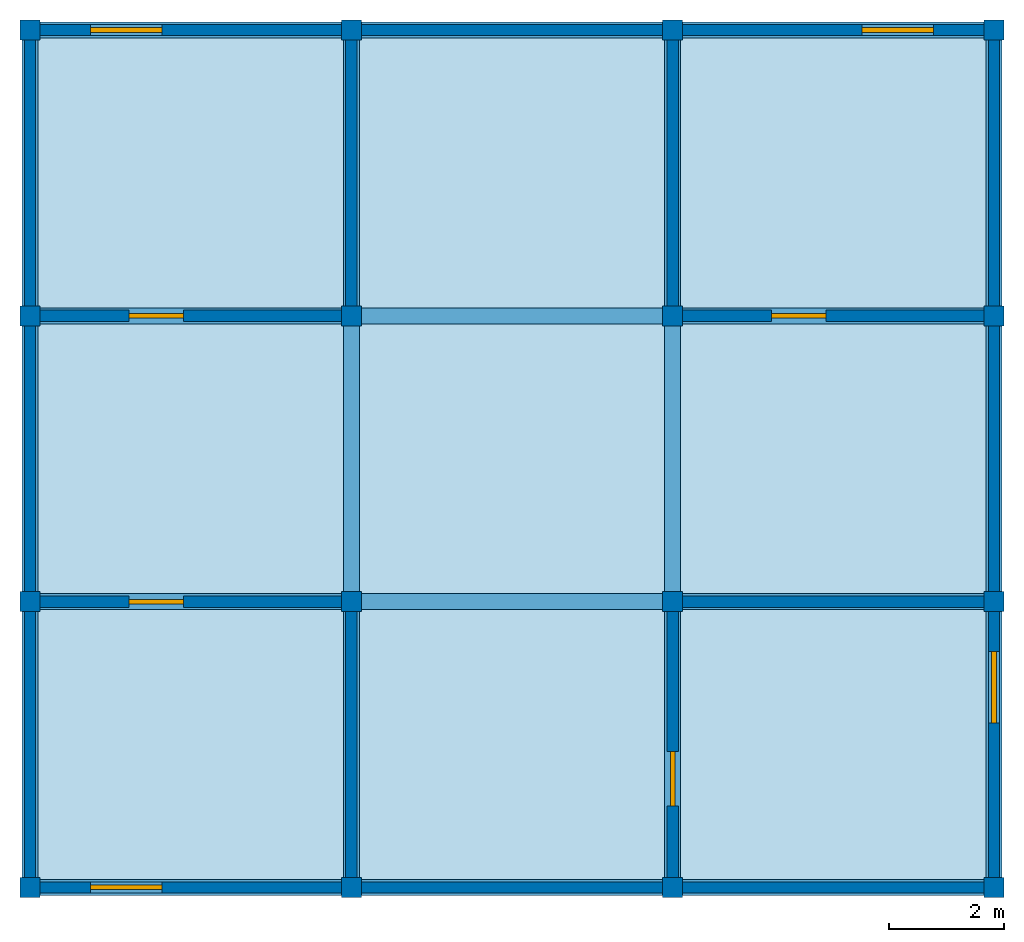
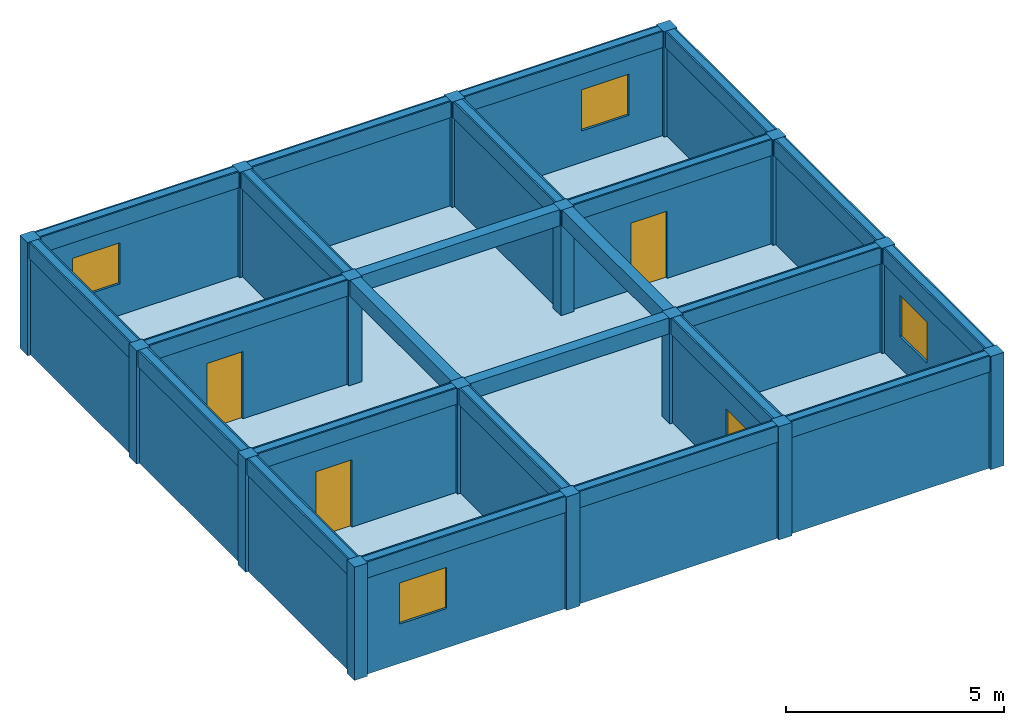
# One storey: 24 beams, 20 walls, 16 columns, 4 doors, 4 windows, 1 slab, 8 openings.
"""IFC4X3 building model written with IfcOpenShell, lengths in metres."""

from ifc_helpers import new_model, si_unit, frame, origin_with_axes, origin_2d, place, context, project, spatial, rectangle, extrude, material, element, fill, save


model = new_model("IFC4X3")

# Units and contexts
model_context = context("Model", 3, precision=1e-05, world=origin_with_axes())
ifc_project = project(units=[si_unit("LENGTHUNIT", "METRE"), si_unit("AREAUNIT", "SQUARE_METRE"), si_unit("VOLUMEUNIT", "CUBIC_METRE")], contexts=[model_context])

# Site, building, storey
site = spatial("IfcSite", under=ifc_project, Name="Puerto Montt Parcel", CompositionType="ELEMENT")
building = spatial("IfcBuilding", under=site, Name="Apex Hub", CompositionType="ELEMENT")
storey = spatial("IfcBuildingStorey", under=building, Name="Level 9", CompositionType="ELEMENT", Elevation=25.34)

# Columns
ifc_material_1 = material(Name="Timber")
column_1_placement = place(None, frame((-8.415, -7.485, 25.338), z_axis=(0.0, 0.0, 1.0), x_axis=(1.0, 0.0, 0.0)))
element("IfcColumn", 1, at=column_1_placement, inside=storey, material=ifc_material_1, Name="Column 9.1", ObjectType="Structural Column", PredefinedType="PILASTER", context=model_context, shape_type="SweptSolid", body=[
    extrude(rectangle(XDim=0.35, YDim=0.35, at=origin_2d()), origin_with_axes(), (0.0, 0.0, 1.0), 3.167),
])
column_2_placement = place(None, frame((-8.415, -2.495, 25.338), z_axis=(0.0, 0.0, 1.0), x_axis=(1.0, 0.0, 0.0)))
element("IfcColumn", 2, at=column_2_placement, inside=storey, material=ifc_material_1, Name="Column 9.2", ObjectType="Corner Column", PredefinedType="NOTDEFINED", context=model_context, shape_type="SweptSolid", body=[
    extrude(rectangle(XDim=0.35, YDim=0.35, at=origin_2d()), origin_with_axes(), (0.0, 0.0, 1.0), 3.167),
])
column_3_placement = place(None, frame((-8.415, 2.495, 25.338), z_axis=(0.0, 0.0, 1.0), x_axis=(1.0, 0.0, 0.0)))
element("IfcColumn", 3, at=column_3_placement, inside=storey, material=ifc_material_1, Name="Column 9.3", ObjectType="Corner Column", PredefinedType="COLUMN", context=model_context, shape_type="SweptSolid", body=[
    extrude(rectangle(XDim=0.35, YDim=0.35, at=origin_2d()), origin_with_axes(), (0.0, 0.0, 1.0), 3.167),
])
column_4_placement = place(None, frame((-8.415, 7.485, 25.338), z_axis=(0.0, 0.0, 1.0), x_axis=(1.0, 0.0, 0.0)))
element("IfcColumn", 4, at=column_4_placement, inside=storey, material=ifc_material_1, Name="Column 9.4", ObjectType="Corner Column", PredefinedType="USERDEFINED", context=model_context, shape_type="SweptSolid", body=[
    extrude(rectangle(XDim=0.35, YDim=0.35, at=origin_2d()), origin_with_axes(), (0.0, 0.0, 1.0), 3.167),
])
column_5_placement = place(None, frame((-2.805, -7.485, 25.338), z_axis=(0.0, 0.0, 1.0), x_axis=(1.0, 0.0, 0.0)))
element("IfcColumn", 5, at=column_5_placement, inside=storey, material=ifc_material_1, Name="Column 9.5", ObjectType="Facade Column", PredefinedType="USERDEFINED", context=model_context, shape_type="SweptSolid", body=[
    extrude(rectangle(XDim=0.35, YDim=0.35, at=origin_2d()), origin_with_axes(), (0.0, 0.0, 1.0), 3.167),
])
column_6_placement = place(None, frame((-2.805, -2.495, 25.338), z_axis=(0.0, 0.0, 1.0), x_axis=(1.0, 0.0, 0.0)))
element("IfcColumn", 6, at=column_6_placement, inside=storey, material=ifc_material_1, Name="Column 9.6", ObjectType="Corner Column", PredefinedType="NOTDEFINED", context=model_context, shape_type="SweptSolid", body=[
    extrude(rectangle(XDim=0.35, YDim=0.35, at=origin_2d()), origin_with_axes(), (0.0, 0.0, 1.0), 3.167),
])
column_7_placement = place(None, frame((-2.805, 2.495, 25.338), z_axis=(0.0, 0.0, 1.0), x_axis=(1.0, 0.0, 0.0)))
element("IfcColumn", 7, at=column_7_placement, inside=storey, material=ifc_material_1, Name="Column 9.7", ObjectType="Corner Column", PredefinedType="COLUMN", context=model_context, shape_type="SweptSolid", body=[
    extrude(rectangle(XDim=0.35, YDim=0.35, at=origin_2d()), origin_with_axes(), (0.0, 0.0, 1.0), 3.167),
])
column_8_placement = place(None, frame((-2.805, 7.485, 25.338), z_axis=(0.0, 0.0, 1.0), x_axis=(1.0, 0.0, 0.0)))
element("IfcColumn", 8, at=column_8_placement, inside=storey, material=ifc_material_1, Name="Column 9.8", ObjectType="Facade Column", PredefinedType="PILASTER", context=model_context, shape_type="SweptSolid", body=[
    extrude(rectangle(XDim=0.35, YDim=0.35, at=origin_2d()), origin_with_axes(), (0.0, 0.0, 1.0), 3.167),
])
column_9_placement = place(None, frame((2.805, -7.485, 25.338), z_axis=(0.0, 0.0, 1.0), x_axis=(1.0, 0.0, 0.0)))
element("IfcColumn", 9, at=column_9_placement, inside=storey, material=ifc_material_1, Name="Column 9.9", ObjectType="Core Column", PredefinedType="USERDEFINED", context=model_context, shape_type="SweptSolid", body=[
    extrude(rectangle(XDim=0.35, YDim=0.35, at=origin_2d()), origin_with_axes(), (0.0, 0.0, 1.0), 3.167),
])
column_10_placement = place(None, frame((2.805, -2.495, 25.338), z_axis=(0.0, 0.0, 1.0), x_axis=(1.0, 0.0, 0.0)))
element("IfcColumn", 10, at=column_10_placement, inside=storey, material=ifc_material_1, Name="Column 9.10", ObjectType="Facade Column", PredefinedType="USERDEFINED", context=model_context, shape_type="SweptSolid", body=[
    extrude(rectangle(XDim=0.35, YDim=0.35, at=origin_2d()), origin_with_axes(), (0.0, 0.0, 1.0), 3.167),
])
column_11_placement = place(None, frame((2.805, 2.495, 25.338), z_axis=(0.0, 0.0, 1.0), x_axis=(1.0, 0.0, 0.0)))
element("IfcColumn", 11, at=column_11_placement, inside=storey, material=ifc_material_1, Name="Column 9.11", ObjectType="Corner Column", PredefinedType="COLUMN", context=model_context, shape_type="SweptSolid", body=[
    extrude(rectangle(XDim=0.35, YDim=0.35, at=origin_2d()), origin_with_axes(), (0.0, 0.0, 1.0), 3.167),
])
column_12_placement = place(None, frame((2.805, 7.485, 25.338), z_axis=(0.0, 0.0, 1.0), x_axis=(1.0, 0.0, 0.0)))
element("IfcColumn", 12, at=column_12_placement, inside=storey, material=ifc_material_1, Name="Column 9.12", ObjectType="Facade Column", PredefinedType="USERDEFINED", context=model_context, shape_type="SweptSolid", body=[
    extrude(rectangle(XDim=0.35, YDim=0.35, at=origin_2d()), origin_with_axes(), (0.0, 0.0, 1.0), 3.167),
])
column_13_placement = place(None, frame((8.415, -7.485, 25.338), z_axis=(0.0, 0.0, 1.0), x_axis=(1.0, 0.0, 0.0)))
element("IfcColumn", 13, at=column_13_placement, inside=storey, material=ifc_material_1, Name="Column 9.13", ObjectType="Facade Column", PredefinedType="PILASTER", context=model_context, shape_type="SweptSolid", body=[
    extrude(rectangle(XDim=0.35, YDim=0.35, at=origin_2d()), origin_with_axes(), (0.0, 0.0, 1.0), 3.167),
])
column_14_placement = place(None, frame((8.415, -2.495, 25.338), z_axis=(0.0, 0.0, 1.0), x_axis=(1.0, 0.0, 0.0)))
element("IfcColumn", 14, at=column_14_placement, inside=storey, material=ifc_material_1, Name="Column 9.14", ObjectType="Corner Column", PredefinedType="PILASTER", context=model_context, shape_type="SweptSolid", body=[
    extrude(rectangle(XDim=0.35, YDim=0.35, at=origin_2d()), origin_with_axes(), (0.0, 0.0, 1.0), 3.167),
])
column_15_placement = place(None, frame((8.415, 2.495, 25.338), z_axis=(0.0, 0.0, 1.0), x_axis=(1.0, 0.0, 0.0)))
element("IfcColumn", 15, at=column_15_placement, inside=storey, material=ifc_material_1, Name="Column 9.15", ObjectType="Core Column", PredefinedType="USERDEFINED", context=model_context, shape_type="SweptSolid", body=[
    extrude(rectangle(XDim=0.35, YDim=0.35, at=origin_2d()), origin_with_axes(), (0.0, 0.0, 1.0), 3.167),
])
column_16_placement = place(None, frame((8.415, 7.485, 25.338), z_axis=(0.0, 0.0, 1.0), x_axis=(1.0, 0.0, 0.0)))
element("IfcColumn", 16, at=column_16_placement, inside=storey, material=ifc_material_1, Name="Column 9.16", ObjectType="Corner Column", PredefinedType="PILASTER", context=model_context, shape_type="SweptSolid", body=[
    extrude(rectangle(XDim=0.35, YDim=0.35, at=origin_2d()), origin_with_axes(), (0.0, 0.0, 1.0), 3.167),
])

# Beams
beam_1_placement = place(None, frame((-5.61, -7.485, 28.055), z_axis=(0.0, 0.0, 1.0), x_axis=(1.0, 0.0, 0.0)))
element("IfcBeam", 17, at=beam_1_placement, inside=storey, material=ifc_material_1, Name="Beam 9.1", ObjectType="Transfer Beam", PredefinedType="LINTEL", context=model_context, shape_type="SweptSolid", body=[
    extrude(rectangle(XDim=5.61, YDim=0.28, at=origin_2d()), origin_with_axes(), (0.0, 0.0, 1.0), 0.45),
])
beam_2_placement = place(None, frame((0.0, -7.485, 28.055), z_axis=(0.0, 0.0, 1.0), x_axis=(1.0, 0.0, 0.0)))
element("IfcBeam", 18, at=beam_2_placement, inside=storey, material=ifc_material_1, Name="Beam 9.2", ObjectType="Transfer Beam", PredefinedType="JOIST", context=model_context, shape_type="SweptSolid", body=[
    extrude(rectangle(XDim=5.61, YDim=0.28, at=origin_2d()), origin_with_axes(), (0.0, 0.0, 1.0), 0.45),
])
beam_3_placement = place(None, frame((5.61, -7.485, 28.055), z_axis=(0.0, 0.0, 1.0), x_axis=(1.0, 0.0, 0.0)))
element("IfcBeam", 19, at=beam_3_placement, inside=storey, material=ifc_material_1, Name="Beam 9.3", ObjectType="Rafter Beam", PredefinedType="BEAM", context=model_context, shape_type="SweptSolid", body=[
    extrude(rectangle(XDim=5.61, YDim=0.28, at=origin_2d()), origin_with_axes(), (0.0, 0.0, 1.0), 0.45),
])
beam_4_placement = place(None, frame((-5.61, -2.495, 28.055), z_axis=(0.0, 0.0, 1.0), x_axis=(1.0, 0.0, 0.0)))
element("IfcBeam", 20, at=beam_4_placement, inside=storey, material=ifc_material_1, Name="Beam 9.4", ObjectType="Transfer Beam", PredefinedType="LINTEL", context=model_context, shape_type="SweptSolid", body=[
    extrude(rectangle(XDim=5.61, YDim=0.28, at=origin_2d()), origin_with_axes(), (0.0, 0.0, 1.0), 0.45),
])
beam_5_placement = place(None, frame((0.0, -2.495, 28.055), z_axis=(0.0, 0.0, 1.0), x_axis=(1.0, 0.0, 0.0)))
element("IfcBeam", 21, at=beam_5_placement, inside=storey, material=ifc_material_1, Name="Beam 9.5", ObjectType="Primary Beam", PredefinedType="NOTDEFINED", context=model_context, shape_type="SweptSolid", body=[
    extrude(rectangle(XDim=5.61, YDim=0.28, at=origin_2d()), origin_with_axes(), (0.0, 0.0, 1.0), 0.45),
])
beam_6_placement = place(None, frame((5.61, -2.495, 28.055), z_axis=(0.0, 0.0, 1.0), x_axis=(1.0, 0.0, 0.0)))
element("IfcBeam", 22, at=beam_6_placement, inside=storey, material=ifc_material_1, Name="Beam 9.6", ObjectType="Transfer Beam", PredefinedType="USERDEFINED", context=model_context, shape_type="SweptSolid", body=[
    extrude(rectangle(XDim=5.61, YDim=0.28, at=origin_2d()), origin_with_axes(), (0.0, 0.0, 1.0), 0.45),
])
beam_7_placement = place(None, frame((-5.61, 2.495, 28.055), z_axis=(0.0, 0.0, 1.0), x_axis=(1.0, 0.0, 0.0)))
element("IfcBeam", 23, at=beam_7_placement, inside=storey, material=ifc_material_1, Name="Beam 9.7", ObjectType="Primary Beam", PredefinedType="LINTEL", context=model_context, shape_type="SweptSolid", body=[
    extrude(rectangle(XDim=5.61, YDim=0.28, at=origin_2d()), origin_with_axes(), (0.0, 0.0, 1.0), 0.45),
])
beam_8_placement = place(None, frame((0.0, 2.495, 28.055), z_axis=(0.0, 0.0, 1.0), x_axis=(1.0, 0.0, 0.0)))
element("IfcBeam", 24, at=beam_8_placement, inside=storey, material=ifc_material_1, Name="Beam 9.8", ObjectType="Primary Beam", PredefinedType="JOIST", context=model_context, shape_type="SweptSolid", body=[
    extrude(rectangle(XDim=5.61, YDim=0.28, at=origin_2d()), origin_with_axes(), (0.0, 0.0, 1.0), 0.45),
])
beam_9_placement = place(None, frame((5.61, 2.495, 28.055), z_axis=(0.0, 0.0, 1.0), x_axis=(1.0, 0.0, 0.0)))
element("IfcBeam", 25, at=beam_9_placement, inside=storey, material=ifc_material_1, Name="Beam 9.9", ObjectType="Rafter Beam", PredefinedType="BEAM", context=model_context, shape_type="SweptSolid", body=[
    extrude(rectangle(XDim=5.61, YDim=0.28, at=origin_2d()), origin_with_axes(), (0.0, 0.0, 1.0), 0.45),
])
beam_10_placement = place(None, frame((-5.61, 7.485, 28.055), z_axis=(0.0, 0.0, 1.0), x_axis=(1.0, 0.0, 0.0)))
element("IfcBeam", 26, at=beam_10_placement, inside=storey, material=ifc_material_1, Name="Beam 9.10", ObjectType="Ridge Beam", PredefinedType="NOTDEFINED", context=model_context, shape_type="SweptSolid", body=[
    extrude(rectangle(XDim=5.61, YDim=0.28, at=origin_2d()), origin_with_axes(), (0.0, 0.0, 1.0), 0.45),
])
beam_11_placement = place(None, frame((0.0, 7.485, 28.055), z_axis=(0.0, 0.0, 1.0), x_axis=(1.0, 0.0, 0.0)))
element("IfcBeam", 27, at=beam_11_placement, inside=storey, material=ifc_material_1, Name="Beam 9.11", ObjectType="Transfer Beam", PredefinedType="USERDEFINED", context=model_context, shape_type="SweptSolid", body=[
    extrude(rectangle(XDim=5.61, YDim=0.28, at=origin_2d()), origin_with_axes(), (0.0, 0.0, 1.0), 0.45),
])
beam_12_placement = place(None, frame((5.61, 7.485, 28.055), z_axis=(0.0, 0.0, 1.0), x_axis=(1.0, 0.0, 0.0)))
element("IfcBeam", 28, at=beam_12_placement, inside=storey, material=ifc_material_1, Name="Beam 9.12", ObjectType="Ridge Beam", PredefinedType="BEAM", context=model_context, shape_type="SweptSolid", body=[
    extrude(rectangle(XDim=5.61, YDim=0.28, at=origin_2d()), origin_with_axes(), (0.0, 0.0, 1.0), 0.45),
])
beam_13_placement = place(None, frame((-8.415, -4.99, 28.055), z_axis=(0.0, 0.0, 1.0), x_axis=(0.0, 1.0, 0.0)))
element("IfcBeam", 29, at=beam_13_placement, inside=storey, material=ifc_material_1, Name="Beam 9.13", ObjectType="Rafter Beam", PredefinedType="NOTDEFINED", context=model_context, shape_type="SweptSolid", body=[
    extrude(rectangle(XDim=4.99, YDim=0.28, at=origin_2d()), origin_with_axes(), (0.0, 0.0, 1.0), 0.45),
])
beam_14_placement = place(None, frame((-8.415, 0.0, 28.055), z_axis=(0.0, 0.0, 1.0), x_axis=(0.0, 1.0, 0.0)))
element("IfcBeam", 30, at=beam_14_placement, inside=storey, material=ifc_material_1, Name="Beam 9.14", ObjectType="Transfer Beam", PredefinedType="USERDEFINED", context=model_context, shape_type="SweptSolid", body=[
    extrude(rectangle(XDim=4.99, YDim=0.28, at=origin_2d()), origin_with_axes(), (0.0, 0.0, 1.0), 0.45),
])
beam_15_placement = place(None, frame((-8.415, 4.99, 28.055), z_axis=(0.0, 0.0, 1.0), x_axis=(0.0, 1.0, 0.0)))
element("IfcBeam", 31, at=beam_15_placement, inside=storey, material=ifc_material_1, Name="Beam 9.15", ObjectType="Transfer Beam", PredefinedType="HOLLOWCORE", context=model_context, shape_type="SweptSolid", body=[
    extrude(rectangle(XDim=4.99, YDim=0.28, at=origin_2d()), origin_with_axes(), (0.0, 0.0, 1.0), 0.45),
])
beam_16_placement = place(None, frame((-2.805, -4.99, 28.055), z_axis=(0.0, 0.0, 1.0), x_axis=(0.0, 1.0, 0.0)))
element("IfcBeam", 32, at=beam_16_placement, inside=storey, material=ifc_material_1, Name="Beam 9.16", ObjectType="Secondary Beam", PredefinedType="BEAM", context=model_context, shape_type="SweptSolid", body=[
    extrude(rectangle(XDim=4.99, YDim=0.28, at=origin_2d()), origin_with_axes(), (0.0, 0.0, 1.0), 0.45),
])
beam_17_placement = place(None, frame((-2.805, 0.0, 28.055), z_axis=(0.0, 0.0, 1.0), x_axis=(0.0, 1.0, 0.0)))
element("IfcBeam", 33, at=beam_17_placement, inside=storey, material=ifc_material_1, Name="Beam 9.17", ObjectType="Primary Beam", PredefinedType="HOLLOWCORE", context=model_context, shape_type="SweptSolid", body=[
    extrude(rectangle(XDim=4.99, YDim=0.28, at=origin_2d()), origin_with_axes(), (0.0, 0.0, 1.0), 0.45),
])
beam_18_placement = place(None, frame((-2.805, 4.99, 28.055), z_axis=(0.0, 0.0, 1.0), x_axis=(0.0, 1.0, 0.0)))
element("IfcBeam", 34, at=beam_18_placement, inside=storey, material=ifc_material_1, Name="Beam 9.18", ObjectType="Primary Beam", PredefinedType="JOIST", context=model_context, shape_type="SweptSolid", body=[
    extrude(rectangle(XDim=4.99, YDim=0.28, at=origin_2d()), origin_with_axes(), (0.0, 0.0, 1.0), 0.45),
])
beam_19_placement = place(None, frame((2.805, -4.99, 28.055), z_axis=(0.0, 0.0, 1.0), x_axis=(0.0, 1.0, 0.0)))
element("IfcBeam", 35, at=beam_19_placement, inside=storey, material=ifc_material_1, Name="Beam 9.19", ObjectType="Transfer Beam", PredefinedType="HOLLOWCORE", context=model_context, shape_type="SweptSolid", body=[
    extrude(rectangle(XDim=4.99, YDim=0.28, at=origin_2d()), origin_with_axes(), (0.0, 0.0, 1.0), 0.45),
])
beam_20_placement = place(None, frame((2.805, 0.0, 28.055), z_axis=(0.0, 0.0, 1.0), x_axis=(0.0, 1.0, 0.0)))
element("IfcBeam", 36, at=beam_20_placement, inside=storey, material=ifc_material_1, Name="Beam 9.20", ObjectType="Transfer Beam", PredefinedType="USERDEFINED", context=model_context, shape_type="SweptSolid", body=[
    extrude(rectangle(XDim=4.99, YDim=0.28, at=origin_2d()), origin_with_axes(), (0.0, 0.0, 1.0), 0.45),
])
beam_21_placement = place(None, frame((2.805, 4.99, 28.055), z_axis=(0.0, 0.0, 1.0), x_axis=(0.0, 1.0, 0.0)))
element("IfcBeam", 37, at=beam_21_placement, inside=storey, material=ifc_material_1, Name="Beam 9.21", ObjectType="Secondary Beam", PredefinedType="JOIST", context=model_context, shape_type="SweptSolid", body=[
    extrude(rectangle(XDim=4.99, YDim=0.28, at=origin_2d()), origin_with_axes(), (0.0, 0.0, 1.0), 0.45),
])
beam_22_placement = place(None, frame((8.415, -4.99, 28.055), z_axis=(0.0, 0.0, 1.0), x_axis=(0.0, 1.0, 0.0)))
element("IfcBeam", 38, at=beam_22_placement, inside=storey, material=ifc_material_1, Name="Beam 9.22", ObjectType="Rafter Beam", PredefinedType="HOLLOWCORE", context=model_context, shape_type="SweptSolid", body=[
    extrude(rectangle(XDim=4.99, YDim=0.28, at=origin_2d()), origin_with_axes(), (0.0, 0.0, 1.0), 0.45),
])
beam_23_placement = place(None, frame((8.415, 0.0, 28.055), z_axis=(0.0, 0.0, 1.0), x_axis=(0.0, 1.0, 0.0)))
element("IfcBeam", 39, at=beam_23_placement, inside=storey, material=ifc_material_1, Name="Beam 9.23", ObjectType="Rafter Beam", PredefinedType="SPANDREL", context=model_context, shape_type="SweptSolid", body=[
    extrude(rectangle(XDim=4.99, YDim=0.28, at=origin_2d()), origin_with_axes(), (0.0, 0.0, 1.0), 0.45),
])
beam_24_placement = place(None, frame((8.415, 4.99, 28.055), z_axis=(0.0, 0.0, 1.0), x_axis=(0.0, 1.0, 0.0)))
element("IfcBeam", 40, at=beam_24_placement, inside=storey, material=ifc_material_1, Name="Beam 9.24", ObjectType="Primary Beam", PredefinedType="SPANDREL", context=model_context, shape_type="SweptSolid", body=[
    extrude(rectangle(XDim=4.99, YDim=0.28, at=origin_2d()), origin_with_axes(), (0.0, 0.0, 1.0), 0.45),
])

# Slab
slab_placement = place(None, frame((0.0, 0.0, 25.34), z_axis=(0.0, 0.0, 1.0), x_axis=(1.0, 0.0, 0.0)))
element("IfcSlab", 41, at=slab_placement, inside=storey, material=ifc_material_1, Name="Slab 9", ObjectType="Floor Slab", PredefinedType="FLOOR", context=model_context, shape_type="SweptSolid", body=[
    extrude(rectangle(XDim=16.83, YDim=14.97, at=origin_2d()), origin_with_axes(), (0.0, 0.0, 1.0), 0.22),
])

# Wall, opening, door
ifc_material_2 = material(Name="Concrete")
wall_1_placement = place(None, frame((-5.61, -2.495, 25.338), z_axis=(0.0, 0.0, 1.0), x_axis=(1.0, 0.0, 0.0)))
wall_1 = element("IfcWall", 42, at=wall_1_placement, inside=storey, material=ifc_material_2, Name="Wall 9.1", ObjectType="Corridor Partition", PredefinedType="USERDEFINED", context=model_context, shape_type="SweptSolid", body=[
    extrude(rectangle(XDim=5.61, YDim=0.197944, at=origin_2d()), origin_with_axes(), (0.0, 0.0, 1.0), 3.167),
])
opening_1_placement = place(None, frame((-6.21, -2.495, 25.338), z_axis=(0.0, 0.0, 1.0), x_axis=(1.0, 0.0, 0.0)))
opening_1 = element("IfcOpeningElement", 43, at=opening_1_placement, cuts=wall_1, Name="Door opening 9.1", ObjectType="Door Opening", PredefinedType="OPENING", context=model_context, shape_type="SweptSolid", body=[
    extrude(rectangle(XDim=0.95, YDim=0.277944, at=origin_2d()), origin_with_axes(), (0.0, 0.0, 1.0), 2.1),
])
door_1_placement = place(None, frame((-6.21, -2.495, 25.338), z_axis=(0.0, 0.0, 1.0), x_axis=(1.0, 0.0, 0.0)))
door_1 = element("IfcDoor", 44, at=door_1_placement, inside=storey, Name="Door 9.1", ObjectType="Interior Door", OverallHeight=2.1, OverallWidth=0.95, context=model_context, shape_type="SweptSolid", body=[
    extrude(rectangle(XDim=0.95, YDim=0.08, at=origin_2d()), origin_with_axes(), (0.0, 0.0, 1.0), 2.1),
])
fill(opening_1, door_1)

# Wall
ifc_material_3 = material(Name="Brick")
wall_2_placement = place(None, frame((-2.805, -4.99, 25.338), z_axis=(0.0, 0.0, 1.0), x_axis=(0.0, 1.0, 0.0)))
element("IfcWall", 45, at=wall_2_placement, inside=storey, material=ifc_material_3, Name="Wall 9.2", ObjectType="Corridor Partition", PredefinedType="PLUMBINGWALL", context=model_context, shape_type="SweptSolid", body=[
    extrude(rectangle(XDim=4.99, YDim=0.197944, at=origin_2d()), origin_with_axes(), (0.0, 0.0, 1.0), 3.167),
])

# Wall, opening, window
ifc_material_4 = material(Name="Gypsum")
wall_3_placement = place(None, frame((-5.61, -7.485, 25.338), z_axis=(0.0, 0.0, 1.0), x_axis=(1.0, 0.0, 0.0)))
wall_3 = element("IfcWall", 46, at=wall_3_placement, inside=storey, material=ifc_material_4, Name="Wall 9.3", ObjectType="Exterior Wall", PredefinedType="STANDARD", context=model_context, shape_type="SweptSolid", body=[
    extrude(rectangle(XDim=5.61, YDim=0.197944, at=origin_2d()), origin_with_axes(), (0.0, 0.0, 1.0), 3.167),
])
opening_2_placement = place(None, frame((-6.732, -7.485, 26.438), z_axis=(0.0, 0.0, 1.0), x_axis=(1.0, 0.0, 0.0)))
opening_2 = element("IfcOpeningElement", 47, at=opening_2_placement, cuts=wall_3, Name="Window opening 9.2", ObjectType="Window Opening", PredefinedType="OPENING", context=model_context, shape_type="SweptSolid", body=[
    extrude(rectangle(XDim=1.25, YDim=0.277944, at=origin_2d()), origin_with_axes(), (0.0, 0.0, 1.0), 1.15),
])
window_1_placement = place(None, frame((-6.732, -7.485, 26.438), z_axis=(0.0, 0.0, 1.0), x_axis=(1.0, 0.0, 0.0)))
window_1 = element("IfcWindow", 48, at=window_1_placement, inside=storey, Name="Window 9.2", ObjectType="Fixed Window", OverallHeight=1.15, OverallWidth=1.25, context=model_context, shape_type="SweptSolid", body=[
    extrude(rectangle(XDim=1.25, YDim=0.08, at=origin_2d()), origin_with_axes(), (0.0, 0.0, 1.0), 1.15),
])
fill(opening_2, window_1)

# Wall
wall_4_placement = place(None, frame((-8.415, -4.99, 25.338), z_axis=(0.0, 0.0, 1.0), x_axis=(0.0, 1.0, 0.0)))
element("IfcWall", 49, at=wall_4_placement, inside=storey, material=ifc_material_4, Name="Wall 9.4", ObjectType="Exterior Wall", PredefinedType="PLUMBINGWALL", context=model_context, shape_type="SweptSolid", body=[
    extrude(rectangle(XDim=4.99, YDim=0.197944, at=origin_2d()), origin_with_axes(), (0.0, 0.0, 1.0), 3.167),
])

# Wall, opening, door
wall_5_placement = place(None, frame((2.805, -4.99, 25.338), z_axis=(0.0, 0.0, 1.0), x_axis=(0.0, 1.0, 0.0)))
wall_5 = element("IfcWall", 50, at=wall_5_placement, inside=storey, material=ifc_material_4, Name="Wall 9.5", ObjectType="Corridor Partition", PredefinedType="PARTITIONING", context=model_context, shape_type="SweptSolid", body=[
    extrude(rectangle(XDim=4.99, YDim=0.197944, at=origin_2d()), origin_with_axes(), (0.0, 0.0, 1.0), 3.167),
])
opening_3_placement = place(None, frame((2.805, -5.59, 25.338), z_axis=(0.0, 0.0, 1.0), x_axis=(0.0, 1.0, 0.0)))
opening_3 = element("IfcOpeningElement", 51, at=opening_3_placement, cuts=wall_5, Name="Door opening 9.3", ObjectType="Door Opening", PredefinedType="OPENING", context=model_context, shape_type="SweptSolid", body=[
    extrude(rectangle(XDim=0.95, YDim=0.277944, at=origin_2d()), origin_with_axes(), (0.0, 0.0, 1.0), 2.1),
])
door_2_placement = place(None, frame((2.805, -5.59, 25.338), z_axis=(0.0, 0.0, 1.0), x_axis=(0.0, 1.0, 0.0)))
door_2 = element("IfcDoor", 52, at=door_2_placement, inside=storey, Name="Door 9.3", ObjectType="Fire Door", OverallHeight=2.1, OverallWidth=0.95, context=model_context, shape_type="SweptSolid", body=[
    extrude(rectangle(XDim=0.95, YDim=0.08, at=origin_2d()), origin_with_axes(), (0.0, 0.0, 1.0), 2.1),
])
fill(opening_3, door_2)

# Walls
wall_6_placement = place(None, frame((0.0, -7.485, 25.338), z_axis=(0.0, 0.0, 1.0), x_axis=(1.0, 0.0, 0.0)))
element("IfcWall", 53, at=wall_6_placement, inside=storey, material=ifc_material_4, Name="Wall 9.6", ObjectType="Exterior Wall", PredefinedType="POLYGONAL", context=model_context, shape_type="SweptSolid", body=[
    extrude(rectangle(XDim=5.61, YDim=0.197944, at=origin_2d()), origin_with_axes(), (0.0, 0.0, 1.0), 3.167),
])
ifc_material_5 = material(Name="CLT")
wall_7_placement = place(None, frame((5.61, -2.495, 25.338), z_axis=(0.0, 0.0, 1.0), x_axis=(1.0, 0.0, 0.0)))
element("IfcWall", 54, at=wall_7_placement, inside=storey, material=ifc_material_5, Name="Wall 9.7", ObjectType="Corridor Partition", PredefinedType="MOVABLE", context=model_context, shape_type="SweptSolid", body=[
    extrude(rectangle(XDim=5.61, YDim=0.197944, at=origin_2d()), origin_with_axes(), (0.0, 0.0, 1.0), 3.167),
])

# Wall, opening, window
wall_8_placement = place(None, frame((8.415, -4.99, 25.338), z_axis=(0.0, 0.0, 1.0), x_axis=(0.0, 1.0, 0.0)))
wall_8 = element("IfcWall", 55, at=wall_8_placement, inside=storey, material=ifc_material_5, Name="Wall 9.8", ObjectType="Exterior Wall", PredefinedType="SOLIDWALL", context=model_context, shape_type="SweptSolid", body=[
    extrude(rectangle(XDim=4.99, YDim=0.197944, at=origin_2d()), origin_with_axes(), (0.0, 0.0, 1.0), 3.167),
])
opening_4_placement = place(None, frame((8.415, -3.992, 26.438), z_axis=(0.0, 0.0, 1.0), x_axis=(0.0, 1.0, 0.0)))
opening_4 = element("IfcOpeningElement", 56, at=opening_4_placement, cuts=wall_8, Name="Window opening 9.4", ObjectType="Window Opening", PredefinedType="OPENING", context=model_context, shape_type="SweptSolid", body=[
    extrude(rectangle(XDim=1.25, YDim=0.277944, at=origin_2d()), origin_with_axes(), (0.0, 0.0, 1.0), 1.15),
])
window_2_placement = place(None, frame((8.415, -3.992, 26.438), z_axis=(0.0, 0.0, 1.0), x_axis=(0.0, 1.0, 0.0)))
window_2 = element("IfcWindow", 57, at=window_2_placement, inside=storey, Name="Window 9.4", ObjectType="Fixed Window", OverallHeight=1.15, OverallWidth=1.25, context=model_context, shape_type="SweptSolid", body=[
    extrude(rectangle(XDim=1.25, YDim=0.08, at=origin_2d()), origin_with_axes(), (0.0, 0.0, 1.0), 1.15),
])
fill(opening_4, window_2)

# Wall
wall_9_placement = place(None, frame((5.61, -7.485, 25.338), z_axis=(0.0, 0.0, 1.0), x_axis=(1.0, 0.0, 0.0)))
element("IfcWall", 58, at=wall_9_placement, inside=storey, material=ifc_material_2, Name="Wall 9.9", ObjectType="Exterior Wall", PredefinedType="NOTDEFINED", context=model_context, shape_type="SweptSolid", body=[
    extrude(rectangle(XDim=5.61, YDim=0.197944, at=origin_2d()), origin_with_axes(), (0.0, 0.0, 1.0), 3.167),
])

# Wall, opening, door
wall_10_placement = place(None, frame((-5.61, 2.495, 25.338), z_axis=(0.0, 0.0, 1.0), x_axis=(1.0, 0.0, 0.0)))
wall_10 = element("IfcWall", 59, at=wall_10_placement, inside=storey, material=ifc_material_2, Name="Wall 9.10", ObjectType="Corridor Partition", PredefinedType="MOVABLE", context=model_context, shape_type="SweptSolid", body=[
    extrude(rectangle(XDim=5.61, YDim=0.197944, at=origin_2d()), origin_with_axes(), (0.0, 0.0, 1.0), 3.167),
])
opening_5_placement = place(None, frame((-6.21, 2.495, 25.338), z_axis=(0.0, 0.0, 1.0), x_axis=(1.0, 0.0, 0.0)))
opening_5 = element("IfcOpeningElement", 60, at=opening_5_placement, cuts=wall_10, Name="Door opening 9.5", ObjectType="Door Opening", PredefinedType="OPENING", context=model_context, shape_type="SweptSolid", body=[
    extrude(rectangle(XDim=0.95, YDim=0.277944, at=origin_2d()), origin_with_axes(), (0.0, 0.0, 1.0), 2.1),
])
door_3_placement = place(None, frame((-6.21, 2.495, 25.338), z_axis=(0.0, 0.0, 1.0), x_axis=(1.0, 0.0, 0.0)))
door_3 = element("IfcDoor", 61, at=door_3_placement, inside=storey, Name="Door 9.5", ObjectType="Interior Door", OverallHeight=2.1, OverallWidth=0.95, context=model_context, shape_type="SweptSolid", body=[
    extrude(rectangle(XDim=0.95, YDim=0.08, at=origin_2d()), origin_with_axes(), (0.0, 0.0, 1.0), 2.1),
])
fill(opening_5, door_3)

# Wall
wall_11_placement = place(None, frame((-8.415, 0.0, 25.338), z_axis=(0.0, 0.0, 1.0), x_axis=(0.0, 1.0, 0.0)))
element("IfcWall", 62, at=wall_11_placement, inside=storey, material=ifc_material_3, Name="Wall 9.11", ObjectType="Exterior Wall", PredefinedType="USERDEFINED", context=model_context, shape_type="SweptSolid", body=[
    extrude(rectangle(XDim=4.99, YDim=0.197944, at=origin_2d()), origin_with_axes(), (0.0, 0.0, 1.0), 3.167),
])

# Wall, opening, door
wall_12_placement = place(None, frame((5.61, 2.495, 25.338), z_axis=(0.0, 0.0, 1.0), x_axis=(1.0, 0.0, 0.0)))
wall_12 = element("IfcWall", 63, at=wall_12_placement, inside=storey, material=ifc_material_3, Name="Wall 9.12", ObjectType="Corridor Partition", PredefinedType="MOVABLE", context=model_context, shape_type="SweptSolid", body=[
    extrude(rectangle(XDim=5.61, YDim=0.197944, at=origin_2d()), origin_with_axes(), (0.0, 0.0, 1.0), 3.167),
])
opening_6_placement = place(None, frame((5.01, 2.495, 25.338), z_axis=(0.0, 0.0, 1.0), x_axis=(1.0, 0.0, 0.0)))
opening_6 = element("IfcOpeningElement", 64, at=opening_6_placement, cuts=wall_12, Name="Door opening 9.7", ObjectType="Door Opening", PredefinedType="OPENING", context=model_context, shape_type="SweptSolid", body=[
    extrude(rectangle(XDim=0.95, YDim=0.277944, at=origin_2d()), origin_with_axes(), (0.0, 0.0, 1.0), 2.1),
])
door_4_placement = place(None, frame((5.01, 2.495, 25.338), z_axis=(0.0, 0.0, 1.0), x_axis=(1.0, 0.0, 0.0)))
door_4 = element("IfcDoor", 65, at=door_4_placement, inside=storey, Name="Door 9.7", ObjectType="Interior Door", OverallHeight=2.1, OverallWidth=0.95, context=model_context, shape_type="SweptSolid", body=[
    extrude(rectangle(XDim=0.95, YDim=0.08, at=origin_2d()), origin_with_axes(), (0.0, 0.0, 1.0), 2.1),
])
fill(opening_6, door_4)

# Wall
wall_13_placement = place(None, frame((8.415, 0.0, 25.338), z_axis=(0.0, 0.0, 1.0), x_axis=(0.0, 1.0, 0.0)))
element("IfcWall", 66, at=wall_13_placement, inside=storey, material=ifc_material_5, Name="Wall 9.13", ObjectType="Exterior Wall", PredefinedType="USERDEFINED", context=model_context, shape_type="SweptSolid", body=[
    extrude(rectangle(XDim=4.99, YDim=0.197944, at=origin_2d()), origin_with_axes(), (0.0, 0.0, 1.0), 3.167),
])

# Wall, opening, window
wall_14_placement = place(None, frame((-5.61, 7.485, 25.338), z_axis=(0.0, 0.0, 1.0), x_axis=(1.0, 0.0, 0.0)))
wall_14 = element("IfcWall", 67, at=wall_14_placement, inside=storey, material=ifc_material_4, Name="Wall 9.14", ObjectType="Exterior Wall", PredefinedType="PARTITIONING", context=model_context, shape_type="SweptSolid", body=[
    extrude(rectangle(XDim=5.61, YDim=0.197944, at=origin_2d()), origin_with_axes(), (0.0, 0.0, 1.0), 3.167),
])
opening_7_placement = place(None, frame((-6.732, 7.485, 26.438), z_axis=(0.0, 0.0, 1.0), x_axis=(1.0, 0.0, 0.0)))
opening_7 = element("IfcOpeningElement", 68, at=opening_7_placement, cuts=wall_14, Name="Window opening 9.6", ObjectType="Window Opening", PredefinedType="OPENING", context=model_context, shape_type="SweptSolid", body=[
    extrude(rectangle(XDim=1.25, YDim=0.277944, at=origin_2d()), origin_with_axes(), (0.0, 0.0, 1.0), 1.15),
])
window_3_placement = place(None, frame((-6.732, 7.485, 26.438), z_axis=(0.0, 0.0, 1.0), x_axis=(1.0, 0.0, 0.0)))
window_3 = element("IfcWindow", 69, at=window_3_placement, inside=storey, Name="Window 9.6", ObjectType="Curtain Window", OverallHeight=1.15, OverallWidth=1.25, context=model_context, shape_type="SweptSolid", body=[
    extrude(rectangle(XDim=1.25, YDim=0.08, at=origin_2d()), origin_with_axes(), (0.0, 0.0, 1.0), 1.15),
])
fill(opening_7, window_3)

# Walls
wall_15_placement = place(None, frame((-2.805, 4.99, 25.338), z_axis=(0.0, 0.0, 1.0), x_axis=(0.0, 1.0, 0.0)))
element("IfcWall", 70, at=wall_15_placement, inside=storey, material=ifc_material_2, Name="Wall 9.15", ObjectType="Corridor Partition", PredefinedType="PARAPET", context=model_context, shape_type="SweptSolid", body=[
    extrude(rectangle(XDim=4.99, YDim=0.197944, at=origin_2d()), origin_with_axes(), (0.0, 0.0, 1.0), 3.167),
])
wall_16_placement = place(None, frame((-8.415, 4.99, 25.338), z_axis=(0.0, 0.0, 1.0), x_axis=(0.0, 1.0, 0.0)))
element("IfcWall", 71, at=wall_16_placement, inside=storey, material=ifc_material_4, Name="Wall 9.16", ObjectType="Exterior Wall", PredefinedType="NOTDEFINED", context=model_context, shape_type="SweptSolid", body=[
    extrude(rectangle(XDim=4.99, YDim=0.197944, at=origin_2d()), origin_with_axes(), (0.0, 0.0, 1.0), 3.167),
])
wall_17_placement = place(None, frame((0.0, 7.485, 25.338), z_axis=(0.0, 0.0, 1.0), x_axis=(1.0, 0.0, 0.0)))
element("IfcWall", 72, at=wall_17_placement, inside=storey, material=ifc_material_5, Name="Wall 9.17", ObjectType="Exterior Wall", PredefinedType="NOTDEFINED", context=model_context, shape_type="SweptSolid", body=[
    extrude(rectangle(XDim=5.61, YDim=0.197944, at=origin_2d()), origin_with_axes(), (0.0, 0.0, 1.0), 3.167),
])
wall_18_placement = place(None, frame((2.805, 4.99, 25.338), z_axis=(0.0, 0.0, 1.0), x_axis=(0.0, 1.0, 0.0)))
element("IfcWall", 73, at=wall_18_placement, inside=storey, material=ifc_material_5, Name="Wall 9.18", ObjectType="Corridor Partition", PredefinedType="PLUMBINGWALL", context=model_context, shape_type="SweptSolid", body=[
    extrude(rectangle(XDim=4.99, YDim=0.197944, at=origin_2d()), origin_with_axes(), (0.0, 0.0, 1.0), 3.167),
])

# Wall, opening, window
wall_19_placement = place(None, frame((5.61, 7.485, 25.338), z_axis=(0.0, 0.0, 1.0), x_axis=(1.0, 0.0, 0.0)))
wall_19 = element("IfcWall", 74, at=wall_19_placement, inside=storey, material=ifc_material_3, Name="Wall 9.19", ObjectType="Exterior Wall", PredefinedType="SHEAR", context=model_context, shape_type="SweptSolid", body=[
    extrude(rectangle(XDim=5.61, YDim=0.197944, at=origin_2d()), origin_with_axes(), (0.0, 0.0, 1.0), 3.167),
])
opening_8_placement = place(None, frame((6.732, 7.485, 26.438), z_axis=(0.0, 0.0, 1.0), x_axis=(1.0, 0.0, 0.0)))
opening_8 = element("IfcOpeningElement", 75, at=opening_8_placement, cuts=wall_19, Name="Window opening 9.8", ObjectType="Window Opening", PredefinedType="OPENING", context=model_context, shape_type="SweptSolid", body=[
    extrude(rectangle(XDim=1.25, YDim=0.277944, at=origin_2d()), origin_with_axes(), (0.0, 0.0, 1.0), 1.15),
])
window_4_placement = place(None, frame((6.732, 7.485, 26.438), z_axis=(0.0, 0.0, 1.0), x_axis=(1.0, 0.0, 0.0)))
window_4 = element("IfcWindow", 76, at=window_4_placement, inside=storey, Name="Window 9.8", ObjectType="Louvre Window", OverallHeight=1.15, OverallWidth=1.25, context=model_context, shape_type="SweptSolid", body=[
    extrude(rectangle(XDim=1.25, YDim=0.08, at=origin_2d()), origin_with_axes(), (0.0, 0.0, 1.0), 1.15),
])
fill(opening_8, window_4)

# Wall
wall_20_placement = place(None, frame((8.415, 4.99, 25.338), z_axis=(0.0, 0.0, 1.0), x_axis=(0.0, 1.0, 0.0)))
element("IfcWall", 77, at=wall_20_placement, inside=storey, material=ifc_material_5, Name="Wall 9.20", ObjectType="Exterior Wall", PredefinedType="STANDARD", context=model_context, shape_type="SweptSolid", body=[
    extrude(rectangle(XDim=4.99, YDim=0.197944, at=origin_2d()), origin_with_axes(), (0.0, 0.0, 1.0), 3.167),
])

save(model, "model.ifc")
